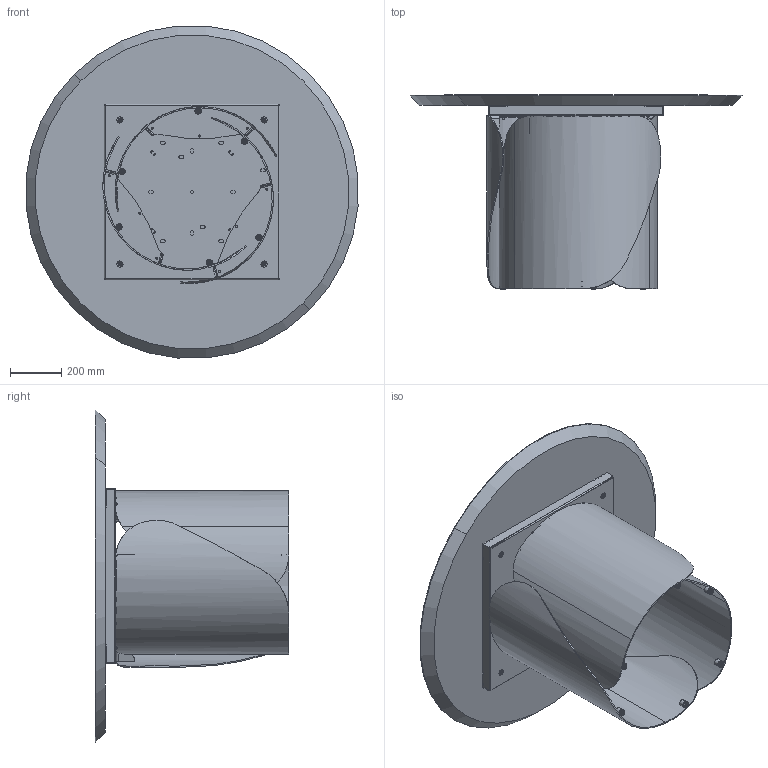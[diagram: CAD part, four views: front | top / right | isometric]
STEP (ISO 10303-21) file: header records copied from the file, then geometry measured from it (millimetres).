
FILE_DESCRIPTION (( 'STEP AP203' ), '1' );
FILE_NAME ('ON05W.STEP', '2024-08-06T13:28:37', ( '' ), ( '' ), 'SwSTEP 2.0', 'SolidWorks 2022', '' );
FILE_SCHEMA (( 'CONFIG_CONTROL_DESIGN' ));
Length unit declared in the file: millimetre
Products named in the file (15): ON05W; M8xXXmm_M8x20mm; PIEDINO PER ONDA; OND000000_03-00-LAMIERA CURVATA PRINCIPALE_OND00000X-00-ONDA BASE GREZZA PROTOTIPO; OND000000-03-ONDA BASE GREZZA; OND000000_02-00-CILINDRO DI FISSAGGIO Ø25X17 M8; COLLO BASE ONDA SINGOLA CON FERRAMENTA; COLLO TELAIO UNIVERSALE TTAV0801 CON FERRAMENTA_MTG TOP LEGNO-MARMO-KING; W1XCMXX-00-Piani Rotondi legno_D.1300; TTAV0801-02-TELAIO UNIVERSALE TONDO; rondella M8_8X24; TTAV0801 TELAIO UNIVERSALE TONDO-PIASTRINA; M8xXXmm_M8x55mm; TTAV0801-02-TELAIO UNIVERSALE TONDO-VASSOIO; OND000000_01-00-PIASTRA SUPERIORE BASE ONDA
Assembly tree (50 placements, depth 4):
  ON05W
    COLLO TELAIO UNIVERSALE TTAV0801 CON FERRAMENTA_MTG TOP LEGNO-MARMO-KING
      TTAV0801-02-TELAIO UNIVERSALE TONDO
        TTAV0801-02-TELAIO UNIVERSALE TONDO-VASSOIO
        TTAV0801 TELAIO UNIVERSALE TONDO-PIASTRINA  x4
      rondella M8_8X24  x4
      M8xXXmm_M8x55mm  x4
    COLLO BASE ONDA SINGOLA CON FERRAMENTA  x3
      OND000000-03-ONDA BASE GREZZA
        OND000000_03-00-LAMIERA CURVATA PRINCIPALE_OND00000X-00-ONDA BASE GREZZA PROTOTIPO
        OND000000_01-00-PIASTRA SUPERIORE BASE ONDA
        OND000000_02-00-CILINDRO DI FISSAGGIO Ø25X17 M8  x2
      PIEDINO PER ONDA
    rondella M8_8X24  x12
    M8xXXmm_M8x20mm  x12
    W1XCMXX-00-Piani Rotondi legno_D.1300
Bounding box: 1295.05 x 756 x 1295.05 mm (x, y, z)
Volume: 61110738.2 mm3; surface area: 7369417.6 mm2
Topology: 62 solids, 62 shells, 1703 faces, 4015 edges, 2464 vertices
Faces by surface type: plane 674, cylinder 567, torus 216, cone 186, bspline 60
Entity records: 20549 total; most frequent: CARTESIAN_POINT 4759, DIRECTION 2840, ORIENTED_EDGE 2704, EDGE_CURVE 1352, AXIS2_PLACEMENT_3D 1043, VERTEX_POINT 866, VECTOR 754, LINE 754
